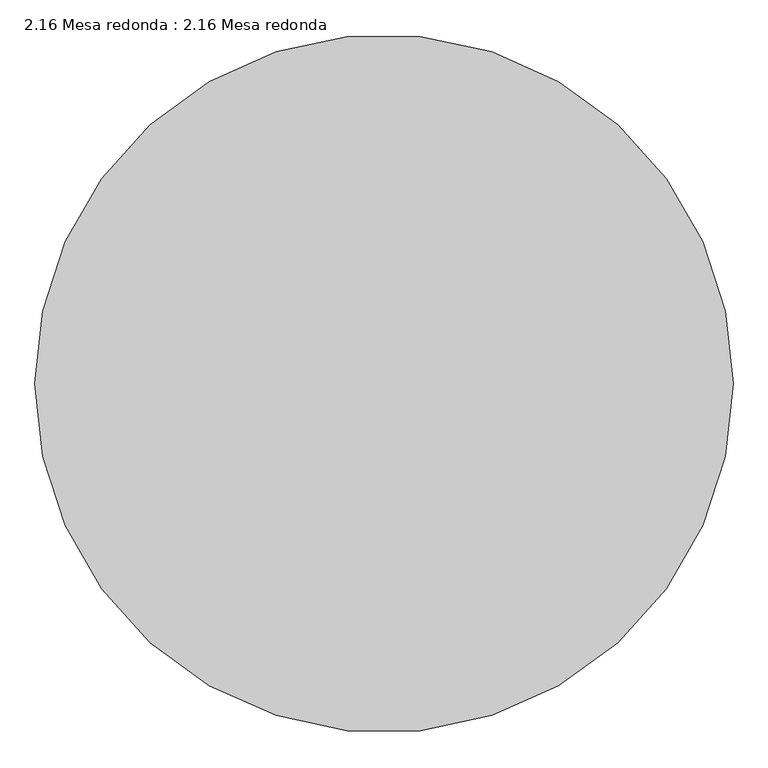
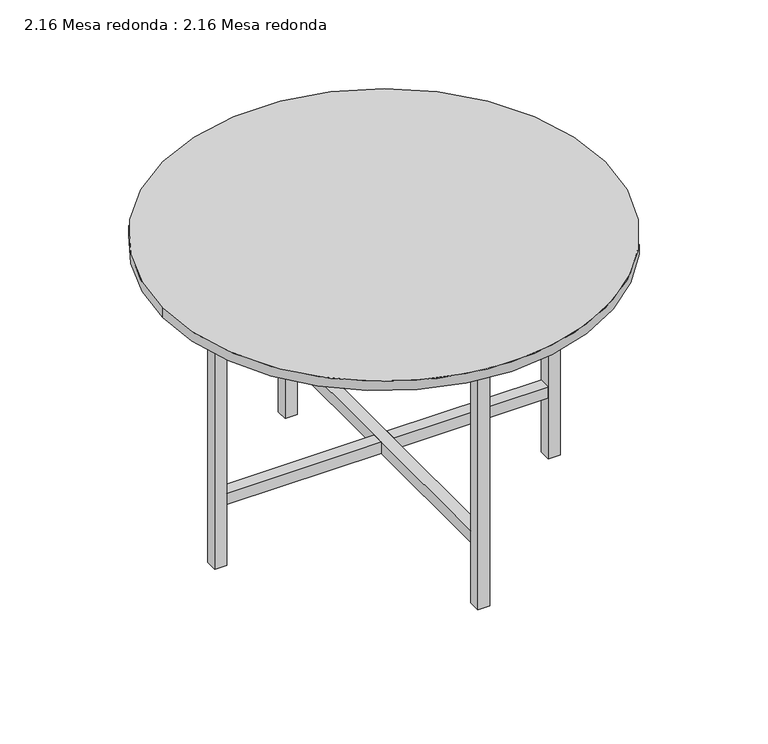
"""IFC4 building model written with IfcOpenShell, lengths in millimetres: furniture geometry, 2.16 Mesa redonda : 2.16 Mesa redonda."""

from ifc_helpers import new_model, si_unit, point, frame, origin, origin_with_axes, origin_2d, place, context, project, spatial, polyline, circle_curve, trimmed, segment, composite_curve, outline, extrude, source, transform, mapped, element, save


def furniture_2_16_mesa_redonda_2_16_mesa_redonda_79845c6b(model_context):
    return source(origin(), model_context, "Body", "SweptSolid", [
        extrude(outline(composite_curve([segment(trimmed(circle_curve(origin_2d(), 550.0), [point((550.0, 0.0))], [point((-550.0, 0.0))], False, "CARTESIAN"), True, "CONTINUOUS"), segment(trimmed(circle_curve(origin_2d(), 550.0), [point((-550.0, 0.0))], [point((550.0, 0.0))], False, "CARTESIAN"), True, "CONTINUOUS")], self_intersect=False)), frame((0.0, 0.0, 695.0), z_axis=(0.0, 0.0, 1.0), x_axis=(1.0, 0.0, 0.0)), (0.0, 0.0, 1.0), 25.0),
        extrude(outline(polyline([(-399.6446609, 15.0), (-399.6446609, -15.0), (-429.6446609, -15.0), (-429.6446609, 15.0), (-399.6446609, 15.0)])), origin_with_axes(), (0.0, 0.0, 1.0), 695.0),
        extrude(outline(polyline([(15.0, -399.6446609), (15.0, -429.6446609), (-15.0, -429.6446609), (-15.0, -399.6446609), (15.0, -399.6446609)])), origin_with_axes(), (0.0, 0.0, 1.0), 695.0),
        extrude(outline(polyline([(429.6446609, 15.0), (429.6446609, -15.0), (399.6446609, -15.0), (399.6446609, 15.0), (429.6446609, 15.0)])), origin_with_axes(), (0.0, 0.0, 1.0), 695.0),
        extrude(outline(polyline([(-15.0, 399.6446609), (-15.0, 429.6446609), (15.0, 429.6446609), (15.0, 399.6446609), (-15.0, 399.6446609)])), origin_with_axes(), (0.0, 0.0, 1.0), 695.0),
        extrude(outline(polyline([(-15.0, -399.6446609), (-15.0, 399.6446609), (15.0, 399.6446609), (15.0, -399.6446609), (-15.0, -399.6446609)])), frame((0.0, 0.0, 160.0), z_axis=(0.0, 0.0, 1.0), x_axis=(1.0, 0.0, 0.0)), (0.0, 0.0, 1.0), 30.0),
        extrude(outline(polyline([(15.0, 15.0), (399.6446609, 15.0), (399.6446609, -15.0), (15.0, -15.0), (15.0, 15.0)])), frame((0.0, 0.0, 160.0), z_axis=(0.0, 0.0, 1.0), x_axis=(1.0, 0.0, 0.0)), (0.0, 0.0, 1.0), 30.0),
        extrude(outline(polyline([(-15.0, -399.6446609), (-15.0, 399.6446609), (15.0, 399.6446609), (15.0, -399.6446609), (-15.0, -399.6446609)])), frame((0.0, 0.0, 665.0), z_axis=(0.0, 0.0, 1.0), x_axis=(1.0, 0.0, 0.0)), (0.0, 0.0, 1.0), 30.0),
        extrude(outline(polyline([(-399.6446609, 15.0), (-15.0, 15.0), (-15.0, -15.0), (-399.6446609, -15.0), (-399.6446609, 15.0)])), frame((0.0, 0.0, 160.0), z_axis=(0.0, 0.0, 1.0), x_axis=(1.0, 0.0, 0.0)), (0.0, 0.0, 1.0), 30.0),
        extrude(outline(polyline([(15.0, 15.0), (399.6446609, 15.0), (399.6446609, -15.0), (15.0, -15.0), (15.0, 15.0)])), frame((0.0, 0.0, 665.0), z_axis=(0.0, 0.0, 1.0), x_axis=(1.0, 0.0, 0.0)), (0.0, 0.0, 1.0), 30.0),
        extrude(outline(polyline([(-399.6446609, 15.0), (-15.0, 15.0), (-15.0, -15.0), (-399.6446609, -15.0), (-399.6446609, 15.0)])), frame((0.0, 0.0, 665.0), z_axis=(0.0, 0.0, 1.0), x_axis=(1.0, 0.0, 0.0)), (0.0, 0.0, 1.0), 30.0),
    ])


if __name__ == "__main__":
    model = new_model("IFC4")
    model_context = context("Model", 3, world=origin())
    ifc_project = project(units=[si_unit("LENGTHUNIT", "METRE", prefix="MILLI")], contexts=[model_context])
    site = spatial("IfcSite", under=ifc_project)
    building = spatial("IfcBuilding", under=site)
    placement = place(None, origin())
    furniture_2_16_mesa_redonda_2_16_mesa_redonda_shape = furniture_2_16_mesa_redonda_2_16_mesa_redonda_79845c6b(model_context)
    element("IfcFurniture", 1, ObjectType="2.16 Mesa redonda : 2.16 Mesa redonda", at=placement, inside=building, context=model_context, shape_type="MappedRepresentation", body=[
        mapped(furniture_2_16_mesa_redonda_2_16_mesa_redonda_shape, transform((0.0, 0.0, 0.0), x_axis=(1.0, 0.0, 0.0), y_axis=(0.0, 1.0, 0.0), z_axis=(0.0, 0.0, 1.0))),
    ])
    save(model, "model.ifc")
